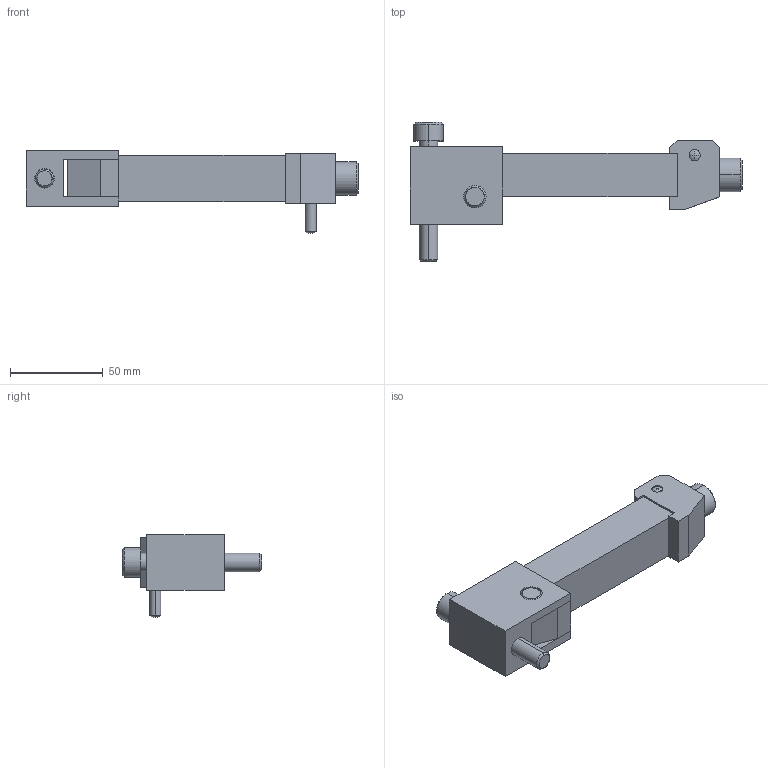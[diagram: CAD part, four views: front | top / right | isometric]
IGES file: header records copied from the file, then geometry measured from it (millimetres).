
Start section: START RECORD GO HERE.
Global section: file name: ZH90-1 BIS.igs; native system: DASSAULT SYSTEMES CATIA V5 R20 - www.3ds.com; preprocessor: CATIA Version 5 Release 20 ; author: Utente; organization: NB04-ASUS; date: 20210221.173508; units: millimetre
Bounding box: 179 x 75 x 44.7 mm (x, y, z)
Surface area: 43917.6 mm2 (no closed solid volume)
Topology: 0 solids, 0 shells, 127 faces, 684 edges, 674 vertices
Faces by surface type: plane 67, revolution 60
